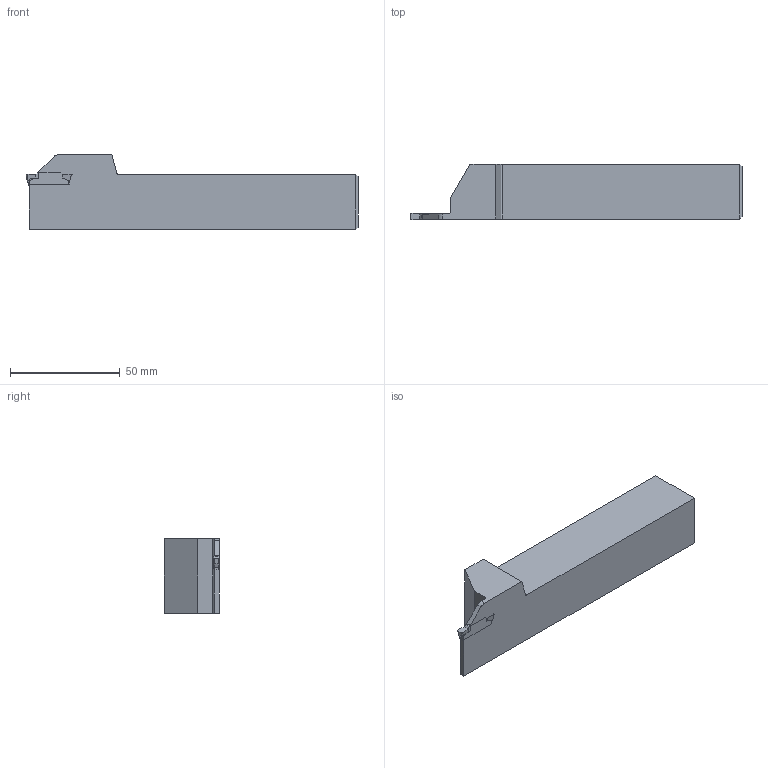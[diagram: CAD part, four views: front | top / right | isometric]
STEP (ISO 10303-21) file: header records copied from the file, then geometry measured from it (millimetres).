
FILE_DESCRIPTION(/* description */ (''),/* implementation_level */ '2;1');
FILE_NAME(/* name */ 'MGEHR2525-3-HAAS.stp',/* time_stamp */ '2021-10-14T10:01:40+09:00',/* author */ (''),/* organization */ (''),/* preprocessor_version */ 'ST-DEVELOPER v11',/* originating_system */ 'SIEMENS UGS NX 6.0',/* authorisation */ '');
FILE_SCHEMA (('CONFIG_CONTROL_DESIGN'));
Length unit declared in the file: millimetre
Products named in the file (1): user254Fxydc
Bounding box: 151.25 x 25.35 x 34 mm (x, y, z)
Volume: 86965 mm3; surface area: 16283.9 mm2
Topology: 2 solids, 2 shells, 57 faces, 151 edges, 98 vertices
Faces by surface type: plane 43, cylinder 10, extrusion 4
Entity records: 1951 total; most frequent: CARTESIAN_POINT 445, ORIENTED_EDGE 302, DIRECTION 279, EDGE_CURVE 151, VECTOR 123, LINE 119, VERTEX_POINT 98, AXIS2_PLACEMENT_3D 78
